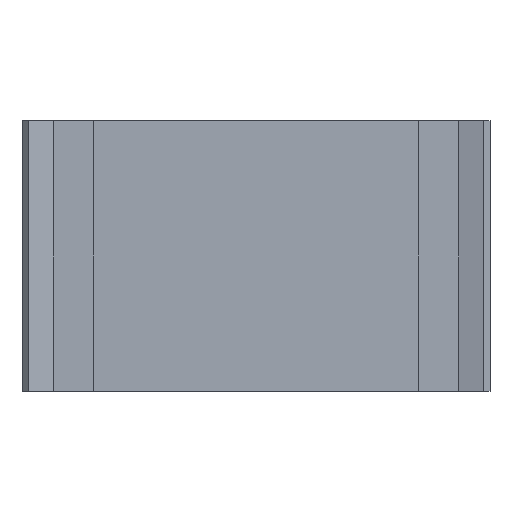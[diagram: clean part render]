
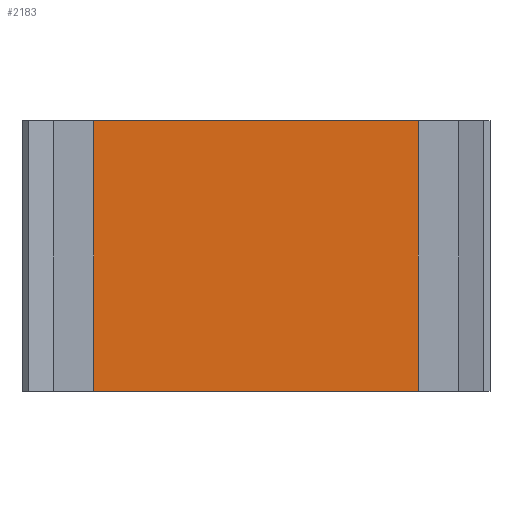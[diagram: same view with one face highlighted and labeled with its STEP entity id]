
A CAD part, left-side view. The second image highlights one B-rep face of the part: STEP entity #2183.
In plain terms, the highlighted planar face has unit normal (-1, 0, 0).
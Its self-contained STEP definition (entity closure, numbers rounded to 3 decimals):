
#97=FACE_OUTER_BOUND('',#231,.T.);
#231=EDGE_LOOP('',(#1718,#1719,#1720,#1721));
#439=LINE('',#3251,#739);
#489=LINE('',#3351,#789);
#491=LINE('',#3355,#791);
#492=LINE('',#3356,#792);
#739=VECTOR('',#2662,10.);
#789=VECTOR('',#2714,10.);
#791=VECTOR('',#2718,10.);
#792=VECTOR('',#2719,10.);
#990=VERTEX_POINT('',#3248);
#991=VERTEX_POINT('',#3250);
#1040=VERTEX_POINT('',#3350);
#1041=VERTEX_POINT('',#3354);
#1239=EDGE_CURVE('',#990,#991,#439,.T.);
#1289=EDGE_CURVE('',#1040,#990,#489,.T.);
#1291=EDGE_CURVE('',#1040,#1041,#491,.T.);
#1292=EDGE_CURVE('',#991,#1041,#492,.T.);
#1718=ORIENTED_EDGE('',*,*,#1289,.F.);
#1719=ORIENTED_EDGE('',*,*,#1291,.T.);
#1720=ORIENTED_EDGE('',*,*,#1292,.F.);
#1721=ORIENTED_EDGE('',*,*,#1239,.F.);
#2057=PLANE('',#2320);
#2183=ADVANCED_FACE('',(#97),#2057,.F.);
#2320=AXIS2_PLACEMENT_3D('',#3353,#2716,#2717);
#2662=DIRECTION('',(0.,-1.,0.));
#2714=DIRECTION('',(0.,0.,1.));
#2716=DIRECTION('center_axis',(1.,0.,0.));
#2717=DIRECTION('ref_axis',(0.,1.,0.));
#2718=DIRECTION('',(0.,-1.,0.));
#2719=DIRECTION('',(0.,0.,-1.));
#3248=CARTESIAN_POINT('',(3.5,27.,20.));
#3250=CARTESIAN_POINT('',(3.5,3.,20.));
#3251=CARTESIAN_POINT('',(3.5,16.,20.));
#3350=CARTESIAN_POINT('',(3.5,27.,0.));
#3351=CARTESIAN_POINT('',(3.5,27.,12.5));
#3353=CARTESIAN_POINT('Origin',(3.5,16.,15.));
#3354=CARTESIAN_POINT('',(3.5,3.,0.));
#3355=CARTESIAN_POINT('',(3.5,16.,0.));
#3356=CARTESIAN_POINT('',(3.5,3.,15.));
